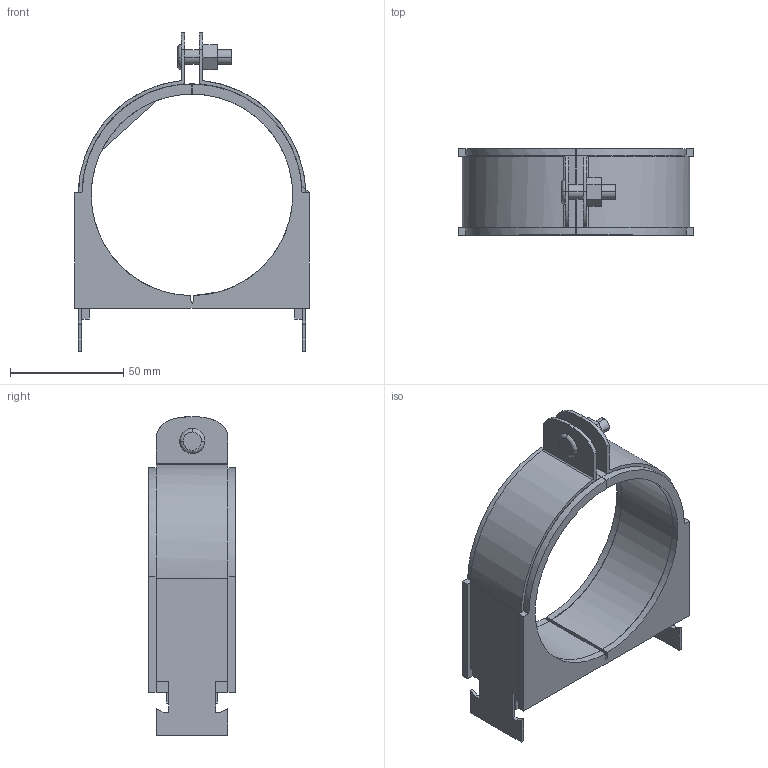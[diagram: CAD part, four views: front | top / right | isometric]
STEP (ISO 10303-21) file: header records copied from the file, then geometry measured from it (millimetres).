
FILE_DESCRIPTION(('TurboCAD Mac Pro'),'Build 980');
FILE_NAME('056N062.stp',' ',(''),(''),'ACIS Interop','IMSI','TurboCAD Mac Pro BY IMSI, INCORPORATED');
FILE_SCHEMA(('automotive_design'));
Length unit declared in the file: inch
Products named in the file (3): 1; 2; 3
Bounding box: 103.49 x 38.1 x 140.71 mm (x, y, z)
Volume: 110540.6 mm3; surface area: 53041.6 mm2
Topology: 3 solids, 3 shells, 150 faces, 384 edges, 244 vertices
Faces by surface type: plane 104, bspline 46
Entity records: 7102 total; most frequent: CARTESIAN_POINT 1735, ORIENTED_EDGE 768, DIRECTION 498, EDGE_CURVE 384, STYLED_ITEM 317, PRESENTATION_STYLE_ASSIGNMENT 317, COLOUR_RGB 317, LINE 276
